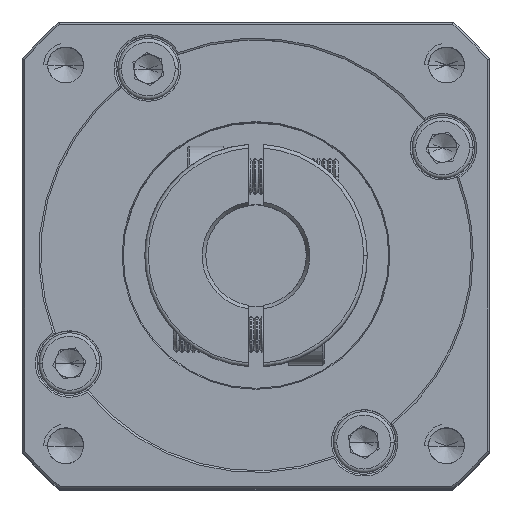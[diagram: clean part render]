
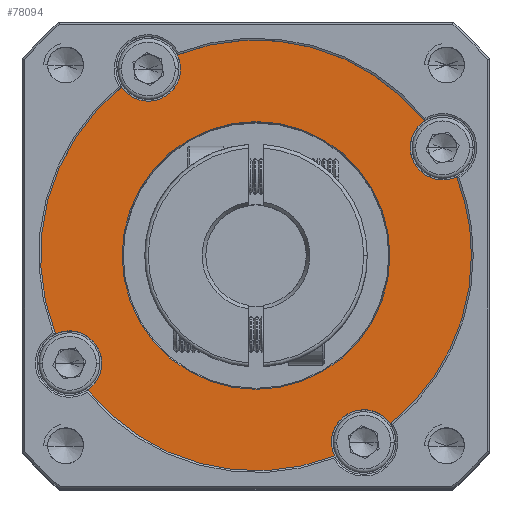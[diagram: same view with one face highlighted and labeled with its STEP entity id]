
A CAD part, top view. The second image highlights one B-rep face of the part: STEP entity #78094.
In plain terms, the highlighted planar face has unit normal (0, 0, 1).
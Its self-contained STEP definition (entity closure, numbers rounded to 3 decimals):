
#677 = CARTESIAN_POINT ( 'NONE',  ( -63.229, 18.354, 1.199 ) ) ;
#2833 = EDGE_CURVE ( 'NONE', #3634, #78043, #72539, .T. ) ;
#3222 = DIRECTION ( 'NONE',  ( 1., 0., 0. ) ) ;
#3634 = VERTEX_POINT ( 'NONE', #62166 ) ;
#3849 = EDGE_CURVE ( 'NONE', #3634, #29776, #67814, .T. ) ;
#5051 = VERTEX_POINT ( 'NONE', #117237 ) ;
#6059 = ORIENTED_EDGE ( 'NONE', *, *, #78104, .T. ) ;
#6381 = DIRECTION ( 'NONE',  ( 0., 0., -1. ) ) ;
#6596 = CARTESIAN_POINT ( 'NONE',  ( -37.248, 33.354, 1.199 ) ) ;
#7012 = DIRECTION ( 'NONE',  ( 0., 0., 1. ) ) ;
#7380 = CARTESIAN_POINT ( 'NONE',  ( -18.604, 33.354, 1.199 ) ) ;
#7412 = DIRECTION ( 'NONE',  ( 0., 0., 1. ) ) ;
#9051 = CARTESIAN_POINT ( 'NONE',  ( -15.767, 48.354, 1.199 ) ) ;
#9221 = ORIENTED_EDGE ( 'NONE', *, *, #32834, .F. ) ;
#9965 = CIRCLE ( 'NONE', #67301, 18.644 ) ;
#10247 = CARTESIAN_POINT ( 'NONE',  ( -37.248, 33.354, 1.199 ) ) ;
#12664 = CARTESIAN_POINT ( 'NONE',  ( -52.248, 59.335, 1.199 ) ) ;
#13433 = CARTESIAN_POINT ( 'NONE',  ( -11.267, 48.354, 1.199 ) ) ;
#14694 = CARTESIAN_POINT ( 'NONE',  ( -13.803, 52.071, 1.199 ) ) ;
#16030 = CIRCLE ( 'NONE', #42639, 4.5 ) ;
#16789 = CARTESIAN_POINT ( 'NONE',  ( -37.248, 33.354, 1.199 ) ) ;
#16836 = EDGE_CURVE ( 'NONE', #29776, #5051, #33058, .T. ) ;
#17014 = AXIS2_PLACEMENT_3D ( 'NONE', #677, #38137, #106924 ) ;
#17706 = DIRECTION ( 'NONE',  ( 1., 0., 0. ) ) ;
#17908 = CIRCLE ( 'NONE', #113878, 18.644 ) ;
#19501 = CARTESIAN_POINT ( 'NONE',  ( -48.193, 61.286, 1.199 ) ) ;
#20025 = VERTEX_POINT ( 'NONE', #75181 ) ;
#24174 = EDGE_CURVE ( 'NONE', #51101, #84530, #65779, .T. ) ;
#24956 = AXIS2_PLACEMENT_3D ( 'NONE', #16789, #85044, #26526 ) ;
#25169 = CARTESIAN_POINT ( 'NONE',  ( -37.248, 33.354, 1.199 ) ) ;
#25855 = DIRECTION ( 'NONE',  ( 0., 0., 1. ) ) ;
#26526 = DIRECTION ( 'NONE',  ( 1., 0., 0. ) ) ;
#27885 = EDGE_CURVE ( 'NONE', #51101, #93883, #16030, .T. ) ;
#29059 = DIRECTION ( 'NONE',  ( 1., 0., 0. ) ) ;
#29776 = VERTEX_POINT ( 'NONE', #88261 ) ;
#31045 = CARTESIAN_POINT ( 'NONE',  ( -47.748, 59.335, 1.199 ) ) ;
#31630 = AXIS2_PLACEMENT_3D ( 'NONE', #10247, #124968, #36223 ) ;
#32834 = EDGE_CURVE ( 'NONE', #20025, #120079, #40277, .T. ) ;
#33058 = CIRCLE ( 'NONE', #82041, 30. ) ;
#33484 = AXIS2_PLACEMENT_3D ( 'NONE', #12664, #39958, #89855 ) ;
#34490 = DIRECTION ( 'NONE',  ( 1., 0., 0. ) ) ;
#34526 = VERTEX_POINT ( 'NONE', #88409 ) ;
#35614 = DIRECTION ( 'NONE',  ( 1., 0., 0. ) ) ;
#35859 = FACE_BOUND ( 'NONE', #73254, .T. ) ;
#36223 = DIRECTION ( 'NONE',  ( 1., 0., 0. ) ) ;
#37434 = CARTESIAN_POINT ( 'NONE',  ( -60.693, 14.637, 1.199 ) ) ;
#38137 = DIRECTION ( 'NONE',  ( 0., 0., 1. ) ) ;
#38657 = EDGE_CURVE ( 'NONE', #93883, #5051, #91800, .T. ) ;
#39902 = DIRECTION ( 'NONE',  ( 1., 0., 0. ) ) ;
#39958 = DIRECTION ( 'NONE',  ( 0., 0., 1. ) ) ;
#40134 = PLANE ( 'NONE',  #95832 ) ;
#40277 = CIRCLE ( 'NONE', #33484, 4.5 ) ;
#42639 = AXIS2_PLACEMENT_3D ( 'NONE', #13433, #111144, #3222 ) ;
#45295 = ORIENTED_EDGE ( 'NONE', *, *, #27885, .F. ) ;
#45321 = ORIENTED_EDGE ( 'NONE', *, *, #76106, .F. ) ;
#45818 = CARTESIAN_POINT ( 'NONE',  ( -37.248, 33.354, 1.199 ) ) ;
#47284 = ORIENTED_EDGE ( 'NONE', *, *, #77537, .F. ) ;
#47979 = CARTESIAN_POINT ( 'NONE',  ( -52.248, 59.335, 1.199 ) ) ;
#48266 = CARTESIAN_POINT ( 'NONE',  ( -37.248, 33.354, 1.199 ) ) ;
#48845 = DIRECTION ( 'NONE',  ( 0., 0., 1. ) ) ;
#49876 = CIRCLE ( 'NONE', #31630, 30. ) ;
#49972 = DIRECTION ( 'NONE',  ( 0., 0., 1. ) ) ;
#50066 = VERTEX_POINT ( 'NONE', #83221 ) ;
#51101 = VERTEX_POINT ( 'NONE', #14694 ) ;
#52343 = AXIS2_PLACEMENT_3D ( 'NONE', #94375, #114041, #123844 ) ;
#53321 = EDGE_CURVE ( 'NONE', #89404, #118549, #17908, .T. ) ;
#53606 = CIRCLE ( 'NONE', #91317, 30. ) ;
#55599 = ORIENTED_EDGE ( 'NONE', *, *, #16836, .T. ) ;
#55845 = ORIENTED_EDGE ( 'NONE', *, *, #65961, .T. ) ;
#56935 = AXIS2_PLACEMENT_3D ( 'NONE', #59151, #89373, #39902 ) ;
#57333 = VERTEX_POINT ( 'NONE', #37434 ) ;
#59151 = CARTESIAN_POINT ( 'NONE',  ( -63.229, 18.354, 1.199 ) ) ;
#62166 = CARTESIAN_POINT ( 'NONE',  ( -18.531, 9.909, 1.199 ) ) ;
#63486 = CARTESIAN_POINT ( 'NONE',  ( -55.892, 33.354, 1.199 ) ) ;
#63840 = DIRECTION ( 'NONE',  ( 1., 0., 0. ) ) ;
#64720 = ORIENTED_EDGE ( 'NONE', *, *, #24174, .T. ) ;
#65590 = EDGE_CURVE ( 'NONE', #126571, #50066, #120374, .T. ) ;
#65779 = CIRCLE ( 'NONE', #24956, 30. ) ;
#65961 = EDGE_CURVE ( 'NONE', #57333, #34526, #49876, .T. ) ;
#65984 = ORIENTED_EDGE ( 'NONE', *, *, #53321, .T. ) ;
#66306 = AXIS2_PLACEMENT_3D ( 'NONE', #47979, #48845, #78714 ) ;
#67301 = AXIS2_PLACEMENT_3D ( 'NONE', #48266, #116573, #29059 ) ;
#67814 = CIRCLE ( 'NONE', #85988, 30. ) ;
#69632 = DIRECTION ( 'NONE',  ( 1., 0., 0. ) ) ;
#70050 = ORIENTED_EDGE ( 'NONE', *, *, #38657, .F. ) ;
#71089 = FACE_OUTER_BOUND ( 'NONE', #93027, .T. ) ;
#71328 = CIRCLE ( 'NONE', #66306, 4.5 ) ;
#72539 = CIRCLE ( 'NONE', #52343, 4.5 ) ;
#73254 = EDGE_LOOP ( 'NONE', ( #6059, #65984 ) ) ;
#73297 = CIRCLE ( 'NONE', #17014, 4.5 ) ;
#75181 = CARTESIAN_POINT ( 'NONE',  ( -55.965, 56.799, 1.199 ) ) ;
#76106 = EDGE_CURVE ( 'NONE', #78043, #34526, #97834, .T. ) ;
#76117 = CARTESIAN_POINT ( 'NONE',  ( -37.248, 33.354, 1.199 ) ) ;
#77537 = EDGE_CURVE ( 'NONE', #120079, #84530, #71328, .T. ) ;
#78043 = VERTEX_POINT ( 'NONE', #96504 ) ;
#78094 = ADVANCED_FACE ( 'NONE', ( #35859, #71089 ), #40134, .T. ) ;
#78104 = EDGE_CURVE ( 'NONE', #118549, #89404, #9965, .T. ) ;
#78714 = DIRECTION ( 'NONE',  ( 1., 0., 0. ) ) ;
#82041 = AXIS2_PLACEMENT_3D ( 'NONE', #6596, #123500, #63840 ) ;
#83221 = CARTESIAN_POINT ( 'NONE',  ( -65.18, 22.409, 1.199 ) ) ;
#84530 = VERTEX_POINT ( 'NONE', #19501 ) ;
#85044 = DIRECTION ( 'NONE',  ( 0., 0., 1. ) ) ;
#85988 = AXIS2_PLACEMENT_3D ( 'NONE', #76117, #7012, #17706 ) ;
#86982 = EDGE_CURVE ( 'NONE', #20025, #50066, #53606, .T. ) ;
#88261 = CARTESIAN_POINT ( 'NONE',  ( -7.248, 33.354, 1.199 ) ) ;
#88409 = CARTESIAN_POINT ( 'NONE',  ( -26.303, 5.422, 1.199 ) ) ;
#89373 = DIRECTION ( 'NONE',  ( 0., 0., 1. ) ) ;
#89404 = VERTEX_POINT ( 'NONE', #63486 ) ;
#89855 = DIRECTION ( 'NONE',  ( 1., 0., 0. ) ) ;
#91317 = AXIS2_PLACEMENT_3D ( 'NONE', #45818, #7412, #123897 ) ;
#91800 = CIRCLE ( 'NONE', #116847, 4.5 ) ;
#93027 = EDGE_LOOP ( 'NONE', ( #122454, #55845, #45321, #103856, #95370, #55599, #70050, #45295, #64720, #47284, #9221, #93524, #125614 ) ) ;
#93524 = ORIENTED_EDGE ( 'NONE', *, *, #86982, .T. ) ;
#93883 = VERTEX_POINT ( 'NONE', #9051 ) ;
#94375 = CARTESIAN_POINT ( 'NONE',  ( -22.248, 7.373, 1.199 ) ) ;
#95370 = ORIENTED_EDGE ( 'NONE', *, *, #3849, .T. ) ;
#95832 = AXIS2_PLACEMENT_3D ( 'NONE', #108488, #49972, #69632 ) ;
#96022 = EDGE_CURVE ( 'NONE', #57333, #126571, #73297, .T. ) ;
#96504 = CARTESIAN_POINT ( 'NONE',  ( -26.748, 7.373, 1.199 ) ) ;
#97422 = CARTESIAN_POINT ( 'NONE',  ( -58.729, 18.354, 1.199 ) ) ;
#97551 = DIRECTION ( 'NONE',  ( 0., 0., 1. ) ) ;
#97834 = CIRCLE ( 'NONE', #106676, 4.5 ) ;
#103856 = ORIENTED_EDGE ( 'NONE', *, *, #2833, .F. ) ;
#106598 = CARTESIAN_POINT ( 'NONE',  ( -11.267, 48.354, 1.199 ) ) ;
#106676 = AXIS2_PLACEMENT_3D ( 'NONE', #114600, #25855, #35614 ) ;
#106924 = DIRECTION ( 'NONE',  ( 1., 0., 0. ) ) ;
#108488 = CARTESIAN_POINT ( 'NONE',  ( -37.248, 33.354, 1.199 ) ) ;
#111144 = DIRECTION ( 'NONE',  ( 0., 0., 1. ) ) ;
#113878 = AXIS2_PLACEMENT_3D ( 'NONE', #25169, #6381, #34490 ) ;
#114041 = DIRECTION ( 'NONE',  ( 0., 0., 1. ) ) ;
#114600 = CARTESIAN_POINT ( 'NONE',  ( -22.248, 7.373, 1.199 ) ) ;
#116573 = DIRECTION ( 'NONE',  ( 0., 0., -1. ) ) ;
#116847 = AXIS2_PLACEMENT_3D ( 'NONE', #106598, #97551, #117195 ) ;
#117195 = DIRECTION ( 'NONE',  ( 1., 0., 0. ) ) ;
#117237 = CARTESIAN_POINT ( 'NONE',  ( -9.316, 44.299, 1.199 ) ) ;
#118549 = VERTEX_POINT ( 'NONE', #7380 ) ;
#120079 = VERTEX_POINT ( 'NONE', #31045 ) ;
#120374 = CIRCLE ( 'NONE', #56935, 4.5 ) ;
#122454 = ORIENTED_EDGE ( 'NONE', *, *, #96022, .F. ) ;
#123500 = DIRECTION ( 'NONE',  ( 0., 0., 1. ) ) ;
#123844 = DIRECTION ( 'NONE',  ( 1., 0., 0. ) ) ;
#123897 = DIRECTION ( 'NONE',  ( 1., 0., 0. ) ) ;
#124968 = DIRECTION ( 'NONE',  ( 0., 0., 1. ) ) ;
#125614 = ORIENTED_EDGE ( 'NONE', *, *, #65590, .F. ) ;
#126571 = VERTEX_POINT ( 'NONE', #97422 ) ;
